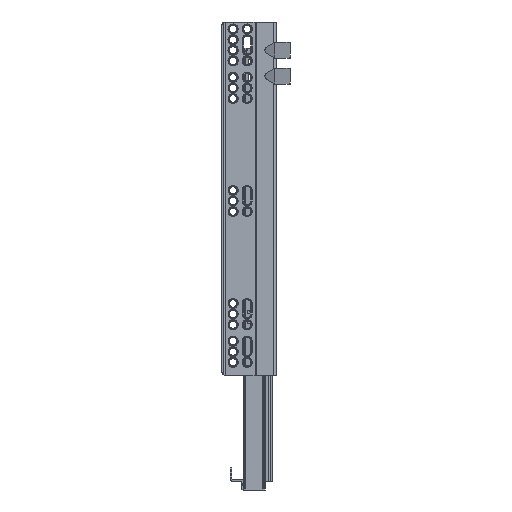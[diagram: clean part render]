
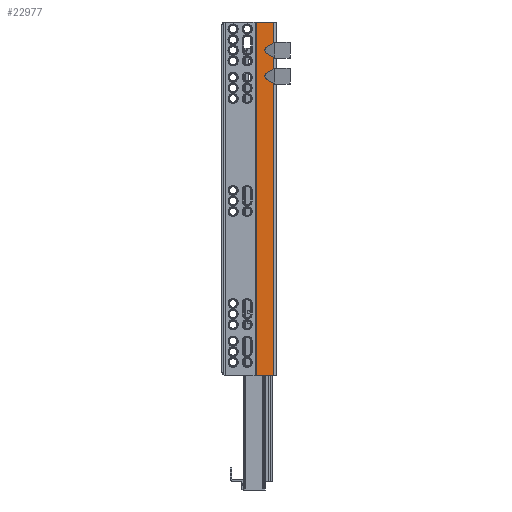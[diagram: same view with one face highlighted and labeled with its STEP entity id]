
A CAD part, left-side view. The second image highlights one B-rep face of the part: STEP entity #22977.
In plain terms, the highlighted planar face has unit normal (-1, 0, 0) as drawn and (1, 0, 0) by its records, which use the part's own axes.
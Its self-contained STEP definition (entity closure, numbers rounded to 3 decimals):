
#371 = LINE ( 'NONE', #25409, #21910 ) ;
#404 = VERTEX_POINT ( 'NONE', #9303 ) ;
#919 = CARTESIAN_POINT ( 'NONE',  ( 35.7, 4.559, 541. ) ) ;
#1489 = VECTOR ( 'NONE', #3211, 1000. ) ;
#2178 = VERTEX_POINT ( 'NONE', #33346 ) ;
#2213 = VERTEX_POINT ( 'NONE', #36627 ) ;
#2705 = EDGE_CURVE ( 'NONE', #2213, #6361, #31707, .T. ) ;
#3140 = LINE ( 'NONE', #35537, #41191 ) ;
#3211 = DIRECTION ( 'NONE',  ( 0., 1., 0. ) ) ;
#3379 = DIRECTION ( 'NONE',  ( 0., -0.902, 0.432 ) ) ;
#3639 = EDGE_LOOP ( 'NONE', ( #55419, #22214, #4600, #25018, #3732, #18487, #24977, #38823, #40713, #48222, #6366, #55454, #22344, #46396 ) ) ;
#3732 = ORIENTED_EDGE ( 'NONE', *, *, #55325, .F. ) ;
#4143 = VERTEX_POINT ( 'NONE', #10119 ) ;
#4600 = ORIENTED_EDGE ( 'NONE', *, *, #23789, .F. ) ;
#5503 =( BOUNDED_CURVE ( )  B_SPLINE_CURVE ( 3, ( #47696, #22730, #55021, #30067 ),
 .UNSPECIFIED., .F., .F. ) 
 B_SPLINE_CURVE_WITH_KNOTS ( ( 4, 4 ),
 ( 5.201, 6.283 ),
 .UNSPECIFIED. ) 
 CURVE ( )  GEOMETRIC_REPRESENTATION_ITEM ( )  RATIONAL_B_SPLINE_CURVE ( ( 1., 0.905, 0.905, 1. ) ) 
 REPRESENTATION_ITEM ( '' )  );
#6361 = VERTEX_POINT ( 'NONE', #19335 ) ;
#6366 = ORIENTED_EDGE ( 'NONE', *, *, #45811, .F. ) ;
#6951 = LINE ( 'NONE', #32017, #35639 ) ;
#7885 = EDGE_CURVE ( 'NONE', #43264, #41137, #10610, .T. ) ;
#8575 = VERTEX_POINT ( 'NONE', #37339 ) ;
#9303 = CARTESIAN_POINT ( 'NONE',  ( 35.7, -6.499, 19.762 ) ) ;
#10119 = CARTESIAN_POINT ( 'NONE',  ( 35.7, -9.9, 29.866 ) ) ;
#10550 = DIRECTION ( 'NONE',  ( 0., 0., -1. ) ) ;
#10610 = LINE ( 'NONE', #35593, #1489 ) ;
#11366 = CARTESIAN_POINT ( 'NONE',  ( 35.7, -4.713, 20.617 ) ) ;
#11968 = VECTOR ( 'NONE', #3379, 1000. ) ;
#12767 = DIRECTION ( 'NONE',  ( 1., 0., 0. ) ) ;
#13056 = VECTOR ( 'NONE', #51564, 1000. ) ;
#13326 = LINE ( 'NONE', #55074, #17564 ) ;
#14792 = CARTESIAN_POINT ( 'NONE',  ( 35.7, -9.9, 0. ) ) ;
#15426 = VERTEX_POINT ( 'NONE', #56936 ) ;
#16077 = DIRECTION ( 'NONE',  ( 0., 0., -1. ) ) ;
#16866 = CARTESIAN_POINT ( 'NONE',  ( 35.7, -3.671, 47.822 ) ) ;
#17286 = DIRECTION ( 'NONE',  ( 0., -0.902, 0.432 ) ) ;
#17564 = VECTOR ( 'NONE', #16077, 1000. ) ;
#17959 = CARTESIAN_POINT ( 'NONE',  ( 35.7, -4.713, 27.383 ) ) ;
#18032 = DIRECTION ( 'NONE',  ( 0., 0.902, 0.432 ) ) ;
#18487 = ORIENTED_EDGE ( 'NONE', *, *, #30049, .F. ) ;
#18655 = CARTESIAN_POINT ( 'NONE',  ( 35.7, 4.6, 300. ) ) ;
#18835 = CARTESIAN_POINT ( 'NONE',  ( 35.7, -3.671, 24. ) ) ;
#19335 = CARTESIAN_POINT ( 'NONE',  ( 35.7, -6.499, 28.238 ) ) ;
#20192 = DIRECTION ( 'NONE',  ( 0., 1., 0. ) ) ;
#21712 = EDGE_CURVE ( 'NONE', #36499, #8575, #52067, .T. ) ;
#21910 = VECTOR ( 'NONE', #18032, 1000. ) ;
#21991 = CARTESIAN_POINT ( 'NONE',  ( 35.7, -9.9, 541. ) ) ;
#22036 =( BOUNDED_CURVE ( )  B_SPLINE_CURVE ( 3, ( #36340, #11366, #43812, #18835 ),
 .UNSPECIFIED., .F., .F. ) 
 B_SPLINE_CURVE_WITH_KNOTS ( ( 4, 4 ),
 ( 5.201, 6.283 ),
 .UNSPECIFIED. ) 
 CURVE ( )  GEOMETRIC_REPRESENTATION_ITEM ( )  RATIONAL_B_SPLINE_CURVE ( ( 1., 0.905, 0.905, 1. ) ) 
 REPRESENTATION_ITEM ( '' )  );
#22214 = ORIENTED_EDGE ( 'NONE', *, *, #30197, .T. ) ;
#22344 = ORIENTED_EDGE ( 'NONE', *, *, #7885, .T. ) ;
#22730 = CARTESIAN_POINT ( 'NONE',  ( 35.7, -4.713, 42.617 ) ) ;
#22977 = ADVANCED_FACE ( 'NONE', ( #31447 ), #25943, .T. ) ;
#23789 = EDGE_CURVE ( 'NONE', #8575, #57293, #38569, .T. ) ;
#24268 = CARTESIAN_POINT ( 'NONE',  ( 35.7, -6.499, 50.238 ) ) ;
#24539 = EDGE_CURVE ( 'NONE', #15426, #41137, #25955, .T. ) ;
#24977 = ORIENTED_EDGE ( 'NONE', *, *, #40517, .T. ) ;
#25018 = ORIENTED_EDGE ( 'NONE', *, *, #21712, .F. ) ;
#25340 = CARTESIAN_POINT ( 'NONE',  ( 35.7, -3.671, 24. ) ) ;
#25409 = CARTESIAN_POINT ( 'NONE',  ( 35.7, -5.936, 42.031 ) ) ;
#25943 = PLANE ( 'NONE',  #49196 ) ;
#25955 = LINE ( 'NONE', #919, #51292 ) ;
#27434 = CARTESIAN_POINT ( 'NONE',  ( 35.7, -9.9, 40.134 ) ) ;
#28380 = CARTESIAN_POINT ( 'NONE',  ( 35.7, -9.268, 51.564 ) ) ;
#28565 = CARTESIAN_POINT ( 'NONE',  ( 35.7, -9.9, 18.134 ) ) ;
#30049 = EDGE_CURVE ( 'NONE', #43528, #2178, #371, .T. ) ;
#30067 = CARTESIAN_POINT ( 'NONE',  ( 35.7, -3.671, 46. ) ) ;
#30197 = EDGE_CURVE ( 'NONE', #37717, #57293, #13326, .T. ) ;
#31447 = FACE_OUTER_BOUND ( 'NONE', #3639, .T. ) ;
#31544 = CARTESIAN_POINT ( 'NONE',  ( 35.7, -5.936, 20.031 ) ) ;
#31707 =( BOUNDED_CURVE ( )  B_SPLINE_CURVE ( 3, ( #25340, #50309, #17959, #42916 ),
 .UNSPECIFIED., .F., .F. ) 
 B_SPLINE_CURVE_WITH_KNOTS ( ( 4, 4 ),
 ( 0., 1.082 ),
 .UNSPECIFIED. ) 
 CURVE ( )  GEOMETRIC_REPRESENTATION_ITEM ( )  RATIONAL_B_SPLINE_CURVE ( ( 1., 0.905, 0.905, 1. ) ) 
 REPRESENTATION_ITEM ( '' )  );
#32017 = CARTESIAN_POINT ( 'NONE',  ( 35.7, -9.268, 29.564 ) ) ;
#33297 = DIRECTION ( 'NONE',  ( 0., 0., -1. ) ) ;
#33346 = CARTESIAN_POINT ( 'NONE',  ( 35.7, -6.499, 41.762 ) ) ;
#34372 = CARTESIAN_POINT ( 'NONE',  ( 35.7, -9.9, 300. ) ) ;
#34891 = EDGE_CURVE ( 'NONE', #404, #2213, #22036, .T. ) ;
#35537 = CARTESIAN_POINT ( 'NONE',  ( 35.7, -9.9, 541. ) ) ;
#35593 = CARTESIAN_POINT ( 'NONE',  ( 35.7, 4.6, 0. ) ) ;
#35639 = VECTOR ( 'NONE', #17286, 1000. ) ;
#36340 = CARTESIAN_POINT ( 'NONE',  ( 35.7, -6.499, 19.762 ) ) ;
#36499 = VERTEX_POINT ( 'NONE', #50070 ) ;
#36627 = CARTESIAN_POINT ( 'NONE',  ( 35.7, -3.671, 24. ) ) ;
#37339 = CARTESIAN_POINT ( 'NONE',  ( 35.7, -6.499, 50.238 ) ) ;
#37710 = CARTESIAN_POINT ( 'NONE',  ( 35.7, 4.6, 541. ) ) ;
#37717 = VERTEX_POINT ( 'NONE', #34372 ) ;
#38569 = LINE ( 'NONE', #28380, #11968 ) ;
#38823 = ORIENTED_EDGE ( 'NONE', *, *, #45392, .F. ) ;
#40517 = EDGE_CURVE ( 'NONE', #43528, #4143, #54311, .T. ) ;
#40713 = ORIENTED_EDGE ( 'NONE', *, *, #2705, .F. ) ;
#41137 = VERTEX_POINT ( 'NONE', #50956 ) ;
#41191 = VECTOR ( 'NONE', #10550, 1000. ) ;
#41841 = CARTESIAN_POINT ( 'NONE',  ( 35.7, -3.671, 46. ) ) ;
#42916 = CARTESIAN_POINT ( 'NONE',  ( 35.7, -6.499, 28.238 ) ) ;
#43020 = EDGE_CURVE ( 'NONE', #15426, #37717, #50980, .T. ) ;
#43048 = VECTOR ( 'NONE', #43642, 1000. ) ;
#43264 = VERTEX_POINT ( 'NONE', #14792 ) ;
#43528 = VERTEX_POINT ( 'NONE', #27434 ) ;
#43642 = DIRECTION ( 'NONE',  ( 0., -1., 0. ) ) ;
#43812 = CARTESIAN_POINT ( 'NONE',  ( 35.7, -3.671, 22.178 ) ) ;
#45392 = EDGE_CURVE ( 'NONE', #6361, #4143, #6951, .T. ) ;
#45811 = EDGE_CURVE ( 'NONE', #48696, #404, #46379, .T. ) ;
#46379 = LINE ( 'NONE', #31544, #47122 ) ;
#46396 = ORIENTED_EDGE ( 'NONE', *, *, #24539, .F. ) ;
#47122 = VECTOR ( 'NONE', #56491, 1000. ) ;
#47696 = CARTESIAN_POINT ( 'NONE',  ( 35.7, -6.499, 41.762 ) ) ;
#48222 = ORIENTED_EDGE ( 'NONE', *, *, #34891, .F. ) ;
#48696 = VERTEX_POINT ( 'NONE', #28565 ) ;
#49066 = CARTESIAN_POINT ( 'NONE',  ( 35.7, -9.9, 51.866 ) ) ;
#49196 = AXIS2_PLACEMENT_3D ( 'NONE', #37710, #12767, #20192 ) ;
#49237 = CARTESIAN_POINT ( 'NONE',  ( 35.7, -4.713, 49.383 ) ) ;
#50070 = CARTESIAN_POINT ( 'NONE',  ( 35.7, -3.671, 46. ) ) ;
#50309 = CARTESIAN_POINT ( 'NONE',  ( 35.7, -3.671, 25.822 ) ) ;
#50956 = CARTESIAN_POINT ( 'NONE',  ( 35.7, 4.559, 0. ) ) ;
#50980 = LINE ( 'NONE', #18655, #43048 ) ;
#51292 = VECTOR ( 'NONE', #33297, 1000. ) ;
#51564 = DIRECTION ( 'NONE',  ( 0., 0., -1. ) ) ;
#52067 =( BOUNDED_CURVE ( )  B_SPLINE_CURVE ( 3, ( #41841, #16866, #49237, #24268 ),
 .UNSPECIFIED., .F., .F. ) 
 B_SPLINE_CURVE_WITH_KNOTS ( ( 4, 4 ),
 ( 0., 1.082 ),
 .UNSPECIFIED. ) 
 CURVE ( )  GEOMETRIC_REPRESENTATION_ITEM ( )  RATIONAL_B_SPLINE_CURVE ( ( 1., 0.905, 0.905, 1. ) ) 
 REPRESENTATION_ITEM ( '' )  );
#52215 = EDGE_CURVE ( 'NONE', #48696, #43264, #3140, .T. ) ;
#54311 = LINE ( 'NONE', #21991, #13056 ) ;
#55021 = CARTESIAN_POINT ( 'NONE',  ( 35.7, -3.671, 44.178 ) ) ;
#55074 = CARTESIAN_POINT ( 'NONE',  ( 35.7, -9.9, 541. ) ) ;
#55325 = EDGE_CURVE ( 'NONE', #2178, #36499, #5503, .T. ) ;
#55419 = ORIENTED_EDGE ( 'NONE', *, *, #43020, .T. ) ;
#55454 = ORIENTED_EDGE ( 'NONE', *, *, #52215, .T. ) ;
#56491 = DIRECTION ( 'NONE',  ( 0., 0.902, 0.432 ) ) ;
#56936 = CARTESIAN_POINT ( 'NONE',  ( 35.7, 4.559, 300. ) ) ;
#57293 = VERTEX_POINT ( 'NONE', #49066 ) ;
